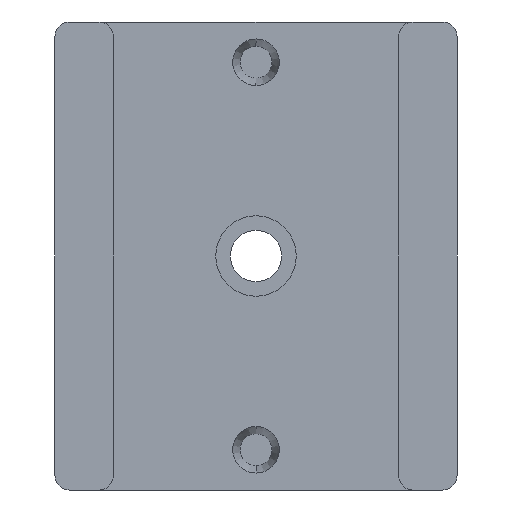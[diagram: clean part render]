
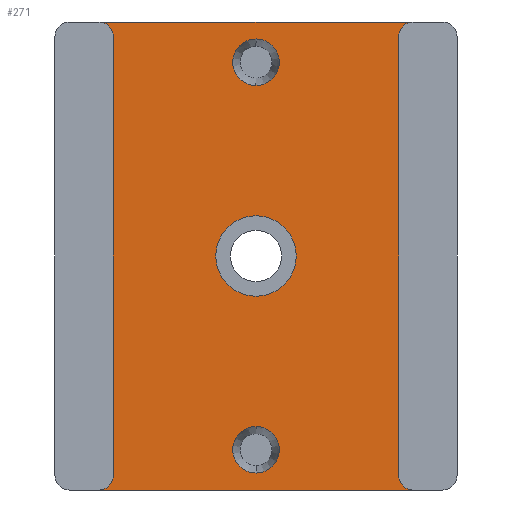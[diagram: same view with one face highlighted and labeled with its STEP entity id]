
A CAD part, front view. The second image highlights one B-rep face of the part: STEP entity #271.
In plain terms, the highlighted planar face has unit normal (0, -1, 0).
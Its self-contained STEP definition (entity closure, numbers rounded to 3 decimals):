
#5 = DIRECTION ( 'NONE',  ( -1., 0., 0. ) ) ;
#6 = EDGE_CURVE ( 'NONE', #176, #880, #760, .T. ) ;
#7 = ORIENTED_EDGE ( 'NONE', *, *, #368, .T. ) ;
#29 = DIRECTION ( 'NONE',  ( 0., 0., -1. ) ) ;
#32 = CIRCLE ( 'NONE', #778, 5.5 ) ;
#38 = DIRECTION ( 'NONE',  ( 0., 0., 1. ) ) ;
#39 = CARTESIAN_POINT ( 'NONE',  ( 0., -16., 0. ) ) ;
#41 = ORIENTED_EDGE ( 'NONE', *, *, #678, .T. ) ;
#48 = DIRECTION ( 'NONE',  ( 0., 1., 0. ) ) ;
#57 = DIRECTION ( 'NONE',  ( 0., 0., 1. ) ) ;
#63 = DIRECTION ( 'NONE',  ( 0., 0., -1. ) ) ;
#66 = EDGE_CURVE ( 'NONE', #607, #350, #163, .T. ) ;
#106 = AXIS2_PLACEMENT_3D ( 'NONE', #437, #48, #599 ) ;
#122 = VECTOR ( 'NONE', #550, 1000. ) ;
#124 = CIRCLE ( 'NONE', #377, 3.183 ) ;
#128 = CARTESIAN_POINT ( 'NONE',  ( 19.5, -16., 32. ) ) ;
#134 = CIRCLE ( 'NONE', #1002, 3.183 ) ;
#147 = CIRCLE ( 'NONE', #697, 3.183 ) ;
#150 = DIRECTION ( 'NONE',  ( 0., 0., 1. ) ) ;
#151 = VERTEX_POINT ( 'NONE', #1013 ) ;
#153 = DIRECTION ( 'NONE',  ( 0., 0., 1. ) ) ;
#163 = CIRCLE ( 'NONE', #226, 5.5 ) ;
#176 = VERTEX_POINT ( 'NONE', #816 ) ;
#198 = CARTESIAN_POINT ( 'NONE',  ( 0., -16., -29.683 ) ) ;
#207 = EDGE_CURVE ( 'NONE', #350, #607, #32, .T. ) ;
#210 = LINE ( 'NONE', #128, #303 ) ;
#216 = ORIENTED_EDGE ( 'NONE', *, *, #903, .F. ) ;
#226 = AXIS2_PLACEMENT_3D ( 'NONE', #452, #692, #63 ) ;
#232 = EDGE_CURVE ( 'NONE', #749, #583, #124, .T. ) ;
#233 = CARTESIAN_POINT ( 'NONE',  ( 0., -16., 26.5 ) ) ;
#242 = FACE_BOUND ( 'NONE', #527, .T. ) ;
#245 = VERTEX_POINT ( 'NONE', #740 ) ;
#253 = CIRCLE ( 'NONE', #498, 3.183 ) ;
#269 = ORIENTED_EDGE ( 'NONE', *, *, #496, .T. ) ;
#271 = ADVANCED_FACE ( 'NONE', ( #919, #645, #242, #444 ), #279, .F. ) ;
#279 = PLANE ( 'NONE',  #705 ) ;
#280 = ORIENTED_EDGE ( 'NONE', *, *, #629, .T. ) ;
#301 = LINE ( 'NONE', #792, #122 ) ;
#302 = DIRECTION ( 'NONE',  ( 0., 1., 0. ) ) ;
#303 = VECTOR ( 'NONE', #29, 1000. ) ;
#304 = ORIENTED_EDGE ( 'NONE', *, *, #207, .F. ) ;
#308 = EDGE_CURVE ( 'NONE', #519, #880, #210, .T. ) ;
#314 = CARTESIAN_POINT ( 'NONE',  ( 0., -16., -26.5 ) ) ;
#321 = ORIENTED_EDGE ( 'NONE', *, *, #882, .F. ) ;
#350 = VERTEX_POINT ( 'NONE', #500 ) ;
#361 = DIRECTION ( 'NONE',  ( 0., 0., 1. ) ) ;
#362 = DIRECTION ( 'NONE',  ( 0., 1., 0. ) ) ;
#364 = EDGE_CURVE ( 'NONE', #519, #245, #698, .T. ) ;
#368 = EDGE_CURVE ( 'NONE', #802, #560, #808, .T. ) ;
#377 = AXIS2_PLACEMENT_3D ( 'NONE', #806, #487, #565 ) ;
#387 = DIRECTION ( 'NONE',  ( 0., 1., 0. ) ) ;
#427 = VECTOR ( 'NONE', #5, 1000. ) ;
#437 = CARTESIAN_POINT ( 'NONE',  ( -21.5, -16., 30. ) ) ;
#439 = AXIS2_PLACEMENT_3D ( 'NONE', #993, #999, #361 ) ;
#444 = FACE_OUTER_BOUND ( 'NONE', #662, .T. ) ;
#452 = CARTESIAN_POINT ( 'NONE',  ( 0., -16., 0. ) ) ;
#467 = CARTESIAN_POINT ( 'NONE',  ( -27.5, -16., 32. ) ) ;
#480 = CARTESIAN_POINT ( 'NONE',  ( -27.5, -16., -32. ) ) ;
#487 = DIRECTION ( 'NONE',  ( 0., 1., 0. ) ) ;
#489 = DIRECTION ( 'NONE',  ( 0., -1., 0. ) ) ;
#496 = EDGE_CURVE ( 'NONE', #151, #1024, #975, .T. ) ;
#498 = AXIS2_PLACEMENT_3D ( 'NONE', #613, #362, #153 ) ;
#500 = CARTESIAN_POINT ( 'NONE',  ( 0., -16., 5.5 ) ) ;
#512 = CARTESIAN_POINT ( 'NONE',  ( 21.5, -16., 30. ) ) ;
#519 = VERTEX_POINT ( 'NONE', #540 ) ;
#527 = EDGE_LOOP ( 'NONE', ( #41, #280 ) ) ;
#540 = CARTESIAN_POINT ( 'NONE',  ( 19.5, -16., 30. ) ) ;
#549 = CARTESIAN_POINT ( 'NONE',  ( 19.5, -16., -30. ) ) ;
#550 = DIRECTION ( 'NONE',  ( 0., 0., 1. ) ) ;
#560 = VERTEX_POINT ( 'NONE', #864 ) ;
#565 = DIRECTION ( 'NONE',  ( 0., 0., 1. ) ) ;
#569 = DIRECTION ( 'NONE',  ( 0., 0., -1. ) ) ;
#576 = CARTESIAN_POINT ( 'NONE',  ( -21.5, -16., -32. ) ) ;
#583 = VERTEX_POINT ( 'NONE', #711 ) ;
#596 = DIRECTION ( 'NONE',  ( 0., 1., 0. ) ) ;
#599 = DIRECTION ( 'NONE',  ( 0., 0., 1. ) ) ;
#607 = VERTEX_POINT ( 'NONE', #866 ) ;
#613 = CARTESIAN_POINT ( 'NONE',  ( 0., -16., -26.5 ) ) ;
#616 = LINE ( 'NONE', #467, #747 ) ;
#617 = EDGE_CURVE ( 'NONE', #583, #749, #134, .T. ) ;
#629 = EDGE_CURVE ( 'NONE', #763, #989, #147, .T. ) ;
#634 = ORIENTED_EDGE ( 'NONE', *, *, #66, .F. ) ;
#645 = FACE_BOUND ( 'NONE', #750, .T. ) ;
#651 = CARTESIAN_POINT ( 'NONE',  ( 0., -16., 0. ) ) ;
#662 = EDGE_LOOP ( 'NONE', ( #744, #842, #321, #7, #216, #269, #1012, #837 ) ) ;
#678 = EDGE_CURVE ( 'NONE', #989, #763, #253, .T. ) ;
#686 = CARTESIAN_POINT ( 'NONE',  ( -21.5, -16., -30. ) ) ;
#692 = DIRECTION ( 'NONE',  ( 0., -1., 0. ) ) ;
#697 = AXIS2_PLACEMENT_3D ( 'NONE', #314, #708, #947 ) ;
#698 = CIRCLE ( 'NONE', #803, 2. ) ;
#705 = AXIS2_PLACEMENT_3D ( 'NONE', #39, #990, #38 ) ;
#707 = DIRECTION ( 'NONE',  ( 1., 0., 0. ) ) ;
#708 = DIRECTION ( 'NONE',  ( 0., 1., 0. ) ) ;
#710 = CARTESIAN_POINT ( 'NONE',  ( 0., -16., -23.317 ) ) ;
#711 = CARTESIAN_POINT ( 'NONE',  ( 0., -16., 29.683 ) ) ;
#740 = CARTESIAN_POINT ( 'NONE',  ( 21.5, -16., 32. ) ) ;
#744 = ORIENTED_EDGE ( 'NONE', *, *, #308, .F. ) ;
#747 = VECTOR ( 'NONE', #707, 1000. ) ;
#749 = VERTEX_POINT ( 'NONE', #765 ) ;
#750 = EDGE_LOOP ( 'NONE', ( #776, #799 ) ) ;
#760 = CIRCLE ( 'NONE', #439, 2. ) ;
#763 = VERTEX_POINT ( 'NONE', #710 ) ;
#765 = CARTESIAN_POINT ( 'NONE',  ( 0., -16., 23.317 ) ) ;
#776 = ORIENTED_EDGE ( 'NONE', *, *, #232, .T. ) ;
#778 = AXIS2_PLACEMENT_3D ( 'NONE', #651, #489, #569 ) ;
#784 = EDGE_LOOP ( 'NONE', ( #634, #304 ) ) ;
#791 = LINE ( 'NONE', #480, #427 ) ;
#792 = CARTESIAN_POINT ( 'NONE',  ( -19.5, -16., 32. ) ) ;
#799 = ORIENTED_EDGE ( 'NONE', *, *, #617, .T. ) ;
#802 = VERTEX_POINT ( 'NONE', #855 ) ;
#803 = AXIS2_PLACEMENT_3D ( 'NONE', #512, #596, #57 ) ;
#806 = CARTESIAN_POINT ( 'NONE',  ( 0., -16., 26.5 ) ) ;
#808 = CIRCLE ( 'NONE', #106, 2. ) ;
#816 = CARTESIAN_POINT ( 'NONE',  ( 21.5, -16., -32. ) ) ;
#837 = ORIENTED_EDGE ( 'NONE', *, *, #6, .T. ) ;
#842 = ORIENTED_EDGE ( 'NONE', *, *, #364, .T. ) ;
#855 = CARTESIAN_POINT ( 'NONE',  ( -21.5, -16., 32. ) ) ;
#864 = CARTESIAN_POINT ( 'NONE',  ( -19.5, -16., 30. ) ) ;
#866 = CARTESIAN_POINT ( 'NONE',  ( 0., -16., -5.5 ) ) ;
#877 = AXIS2_PLACEMENT_3D ( 'NONE', #686, #302, #1026 ) ;
#880 = VERTEX_POINT ( 'NONE', #549 ) ;
#882 = EDGE_CURVE ( 'NONE', #802, #245, #616, .T. ) ;
#903 = EDGE_CURVE ( 'NONE', #151, #560, #301, .T. ) ;
#919 = FACE_BOUND ( 'NONE', #784, .T. ) ;
#947 = DIRECTION ( 'NONE',  ( 0., 0., 1. ) ) ;
#975 = CIRCLE ( 'NONE', #877, 2. ) ;
#982 = EDGE_CURVE ( 'NONE', #176, #1024, #791, .T. ) ;
#989 = VERTEX_POINT ( 'NONE', #198 ) ;
#990 = DIRECTION ( 'NONE',  ( 0., 1., 0. ) ) ;
#993 = CARTESIAN_POINT ( 'NONE',  ( 21.5, -16., -30. ) ) ;
#999 = DIRECTION ( 'NONE',  ( 0., 1., 0. ) ) ;
#1002 = AXIS2_PLACEMENT_3D ( 'NONE', #233, #387, #150 ) ;
#1012 = ORIENTED_EDGE ( 'NONE', *, *, #982, .F. ) ;
#1013 = CARTESIAN_POINT ( 'NONE',  ( -19.5, -16., -30. ) ) ;
#1024 = VERTEX_POINT ( 'NONE', #576 ) ;
#1026 = DIRECTION ( 'NONE',  ( 0., 0., 1. ) ) ;
